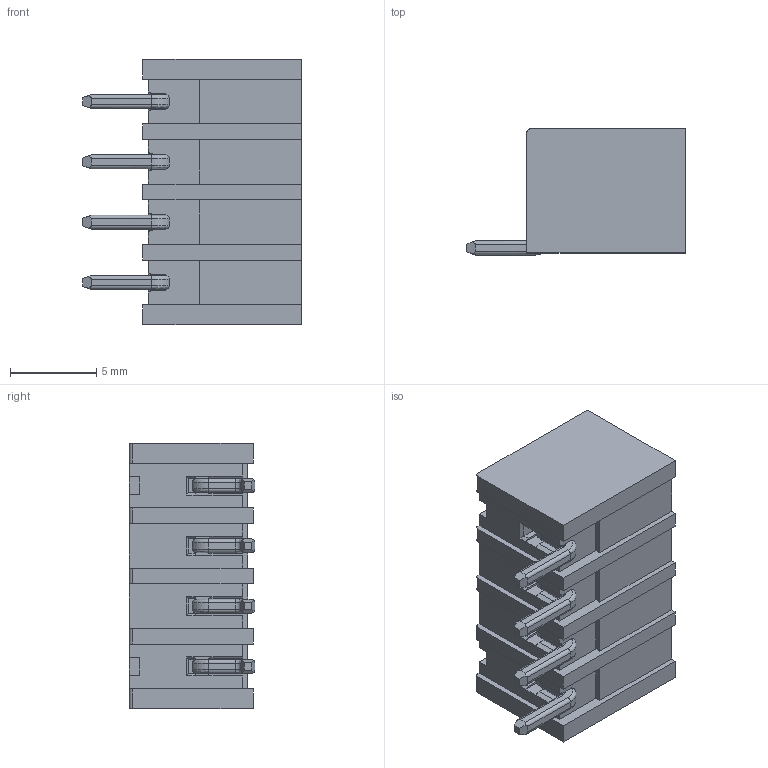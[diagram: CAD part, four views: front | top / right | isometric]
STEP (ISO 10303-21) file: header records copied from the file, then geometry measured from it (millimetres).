
FILE_DESCRIPTION (( 'STEP AP214' ), '1' );
FILE_NAME ('110-M-211-SMD-04.STEP', '2016-12-05T15:38:10', ( '' ), ( '' ), 'SwSTEP 2.0', 'SolidWorks 2016', '' );
FILE_SCHEMA (( 'AUTOMOTIVE_DESIGN' ));
Length unit declared in the file: millimetre
Products named in the file (1): 110-M-211-SMD-04
Bounding box: 12.7 x 7.3 x 15.4 mm (x, y, z)
Volume: 516.1 mm3; surface area: 1388.4 mm2
Topology: 1 solids, 1 shells, 519 faces, 1363 edges, 854 vertices
Faces by surface type: plane 350, cylinder 113, cone 24, bspline 24, torus 8
Entity records: 16725 total; most frequent: CARTESIAN_POINT 4585, ORIENTED_EDGE 2726, DIRECTION 2201, EDGE_CURVE 1363, LINE 893, VECTOR 893, VERTEX_POINT 854, AXIS2_PLACEMENT_3D 654
